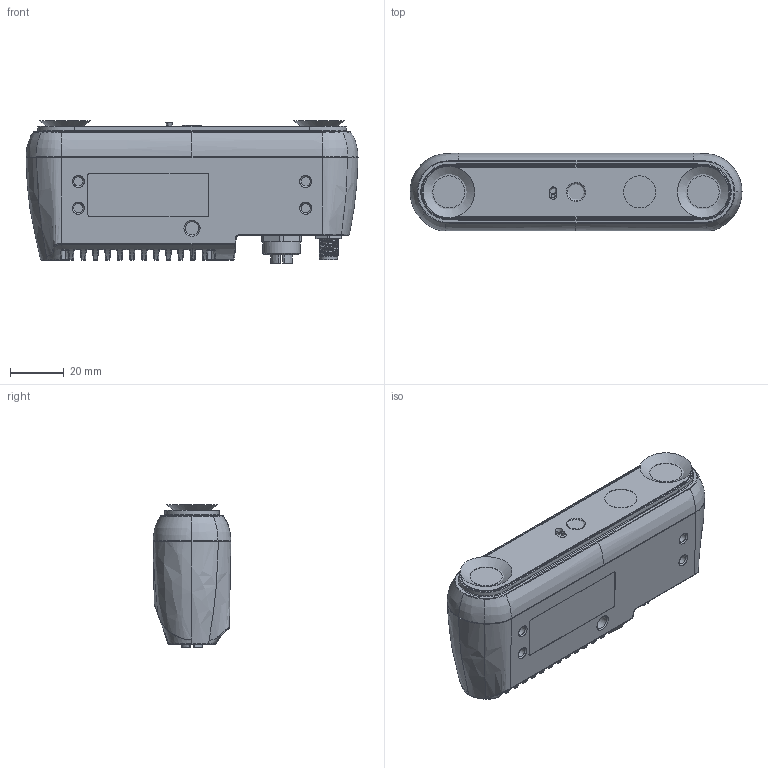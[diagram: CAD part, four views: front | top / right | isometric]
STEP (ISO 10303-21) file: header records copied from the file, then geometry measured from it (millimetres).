
FILE_DESCRIPTION(/* description */ (''),/* implementation_level */ '2;1');
FILE_NAME(/* name */ '117973.stp',/* time_stamp */ '2026-06-15T08:40:12+02:00',/* author */ (''),/* organization */ (''),/* preprocessor_version */ 'ST-DEVELOPER v20',/* originating_system */ 'Autodesk Inventor 2024',/* authorisation */ '');
FILE_SCHEMA (('CONFIG_CONTROL_DESIGN'));
Products named in the file (1): 117973
Bounding box: 124.02 x 29.03 x 53.38 mm (x, y, z)
Volume: 141084.3 mm3; surface area: 30667.5 mm2
Topology: 3 solids, 13 shells, 1169 faces, 2885 edges, 1777 vertices
Faces by surface type: plane 350, cylinder 319, bspline 300, cone 91, sphere 65, torus 44
Full cylindrical faces by diameter (mm): 0.6 x8, 0.66 x8, 0.736 x8, 1.1 x8, 1.159 x8, 1.26 x8, 1.31 x8, 3.5 x4, 5 x1, 5.5 x2, 5.8 x1, 6.7 x1, 6.9 x1, 7 x8, 8 x1, 8.8 x1, 9.2 x1, 11 x5, 12 x9, 14 x1, 14.2 x1
Entity records: 86944 total; most frequent: CARTESIAN_POINT 60333, ORIENTED_EDGE 5677, DIRECTION 4706, EDGE_CURVE 2865, AXIS2_PLACEMENT_3D 1849, VERTEX_POINT 1777, EDGE_LOOP 1256, STYLED_ITEM 1172
